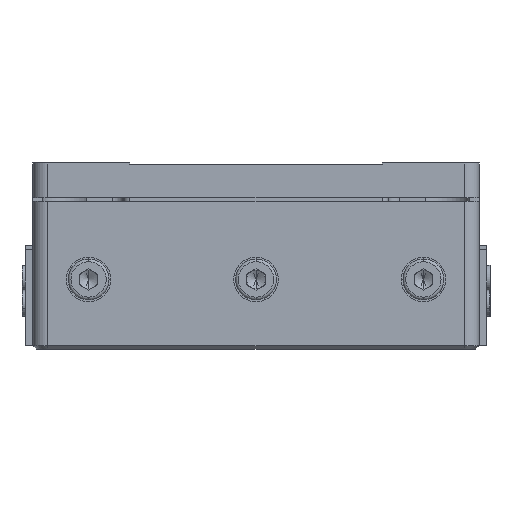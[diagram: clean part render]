
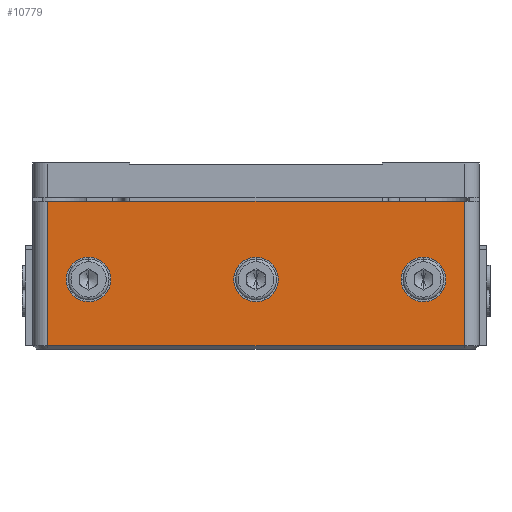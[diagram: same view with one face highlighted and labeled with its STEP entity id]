
A CAD part, front view. The second image highlights one B-rep face of the part: STEP entity #10779.
In plain terms, the highlighted planar face has unit normal (0, -1, 0).
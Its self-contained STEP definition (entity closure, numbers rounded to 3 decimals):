
#454 = ORIENTED_EDGE ( 'NONE', *, *, #6587, .F. ) ;
#657 = CARTESIAN_POINT ( 'NONE',  ( 55.241, -33.416, -5.075 ) ) ;
#1109 = EDGE_CURVE ( 'NONE', #3457, #6074, #19820, .T. ) ;
#1411 = CARTESIAN_POINT ( 'NONE',  ( 60.741, -33.416, -13.975 ) ) ;
#1605 = CIRCLE ( 'NONE', #4861, 3. ) ;
#1668 = DIRECTION ( 'NONE',  ( 0., -1., 0. ) ) ;
#1683 = EDGE_CURVE ( 'NONE', #16491, #10253, #20782, .T. ) ;
#1840 = EDGE_CURVE ( 'NONE', #19560, #17897, #1605, .T. ) ;
#1917 = ORIENTED_EDGE ( 'NONE', *, *, #7288, .T. ) ;
#2190 = CARTESIAN_POINT ( 'NONE',  ( 62.741, -33.416, 5.425 ) ) ;
#2390 = CARTESIAN_POINT ( 'NONE',  ( 60.741, -33.416, -13.975 ) ) ;
#2474 = ORIENTED_EDGE ( 'NONE', *, *, #16754, .T. ) ;
#2520 = CARTESIAN_POINT ( 'NONE',  ( 60.741, -33.416, -14.425 ) ) ;
#2535 = CARTESIAN_POINT ( 'NONE',  ( 10.241, -33.416, -5.075 ) ) ;
#2878 = DIRECTION ( 'NONE',  ( 1., 0., 0. ) ) ;
#3049 = EDGE_LOOP ( 'NONE', ( #19561, #9143 ) ) ;
#3066 = CARTESIAN_POINT ( 'NONE',  ( 52.241, -33.416, -5.075 ) ) ;
#3221 = CARTESIAN_POINT ( 'NONE',  ( 62.741, -33.416, -14.425 ) ) ;
#3457 = VERTEX_POINT ( 'NONE', #6841 ) ;
#4279 = ORIENTED_EDGE ( 'NONE', *, *, #22229, .F. ) ;
#4754 = FACE_BOUND ( 'NONE', #8170, .T. ) ;
#4861 = AXIS2_PLACEMENT_3D ( 'NONE', #23259, #1668, #13450 ) ;
#4879 = DIRECTION ( 'NONE',  ( 0., -1., 0. ) ) ;
#5041 = AXIS2_PLACEMENT_3D ( 'NONE', #23976, #16436, #14275 ) ;
#5119 = DIRECTION ( 'NONE',  ( 1., 0., 0. ) ) ;
#5796 = VERTEX_POINT ( 'NONE', #8941 ) ;
#5852 = VECTOR ( 'NONE', #20320, 1000. ) ;
#6074 = VERTEX_POINT ( 'NONE', #14773 ) ;
#6175 = CARTESIAN_POINT ( 'NONE',  ( 4.741, -33.416, -14.425 ) ) ;
#6433 = DIRECTION ( 'NONE',  ( 1., 0., 0. ) ) ;
#6587 = EDGE_CURVE ( 'NONE', #18452, #5796, #18028, .T. ) ;
#6724 = CARTESIAN_POINT ( 'NONE',  ( 7.241, -33.416, -5.075 ) ) ;
#6734 = CARTESIAN_POINT ( 'NONE',  ( 10.241, -33.416, -5.075 ) ) ;
#6813 = FACE_BOUND ( 'NONE', #23725, .T. ) ;
#6841 = CARTESIAN_POINT ( 'NONE',  ( 4.741, -33.416, 5.425 ) ) ;
#7288 = EDGE_CURVE ( 'NONE', #3457, #13726, #12298, .T. ) ;
#7377 = CARTESIAN_POINT ( 'NONE',  ( 4.741, -33.416, -13.975 ) ) ;
#7543 = CARTESIAN_POINT ( 'NONE',  ( 58.241, -33.416, -5.075 ) ) ;
#7812 = DIRECTION ( 'NONE',  ( 0., -1., 0. ) ) ;
#8170 = EDGE_LOOP ( 'NONE', ( #8839, #4279 ) ) ;
#8364 = EDGE_LOOP ( 'NONE', ( #1917, #15933, #2474, #12390 ) ) ;
#8839 = ORIENTED_EDGE ( 'NONE', *, *, #1840, .F. ) ;
#8941 = CARTESIAN_POINT ( 'NONE',  ( 13.241, -33.416, -5.075 ) ) ;
#9143 = ORIENTED_EDGE ( 'NONE', *, *, #13667, .F. ) ;
#9405 = CIRCLE ( 'NONE', #18343, 3. ) ;
#9997 = DIRECTION ( 'NONE',  ( 1., 0., 0. ) ) ;
#10006 = DIRECTION ( 'NONE',  ( 1., 0., 0. ) ) ;
#10250 = EDGE_CURVE ( 'NONE', #13726, #22244, #17009, .T. ) ;
#10253 = VERTEX_POINT ( 'NONE', #3066 ) ;
#10521 = FACE_OUTER_BOUND ( 'NONE', #8364, .T. ) ;
#10779 = ADVANCED_FACE ( 'NONE', ( #10521, #24176, #4754, #6813 ), #14592, .T. ) ;
#10928 = CARTESIAN_POINT ( 'NONE',  ( 35.741, -33.416, -5.075 ) ) ;
#11094 = AXIS2_PLACEMENT_3D ( 'NONE', #19531, #17615, #15954 ) ;
#11411 = EDGE_CURVE ( 'NONE', #5796, #18452, #9405, .T. ) ;
#12298 = LINE ( 'NONE', #6175, #5852 ) ;
#12315 = AXIS2_PLACEMENT_3D ( 'NONE', #6734, #20520, #2878 ) ;
#12390 = ORIENTED_EDGE ( 'NONE', *, *, #1109, .F. ) ;
#12641 = AXIS2_PLACEMENT_3D ( 'NONE', #657, #23911, #6433 ) ;
#12699 = DIRECTION ( 'NONE',  ( 0., 0., 1. ) ) ;
#13056 = ORIENTED_EDGE ( 'NONE', *, *, #11411, .F. ) ;
#13450 = DIRECTION ( 'NONE',  ( 1., 0., 0. ) ) ;
#13667 = EDGE_CURVE ( 'NONE', #10253, #16491, #20556, .T. ) ;
#13726 = VERTEX_POINT ( 'NONE', #7377 ) ;
#14052 = LINE ( 'NONE', #2520, #21139 ) ;
#14275 = DIRECTION ( 'NONE',  ( 1., 0., 0. ) ) ;
#14592 = PLANE ( 'NONE',  #24404 ) ;
#14773 = CARTESIAN_POINT ( 'NONE',  ( 60.741, -33.416, 5.425 ) ) ;
#15330 = CARTESIAN_POINT ( 'NONE',  ( 29.741, -33.416, -5.075 ) ) ;
#15933 = ORIENTED_EDGE ( 'NONE', *, *, #10250, .T. ) ;
#15954 = DIRECTION ( 'NONE',  ( 1., 0., 0. ) ) ;
#16436 = DIRECTION ( 'NONE',  ( 0., -1., 0. ) ) ;
#16491 = VERTEX_POINT ( 'NONE', #7543 ) ;
#16754 = EDGE_CURVE ( 'NONE', #22244, #6074, #14052, .T. ) ;
#17009 = LINE ( 'NONE', #1411, #21154 ) ;
#17228 = CIRCLE ( 'NONE', #11094, 3. ) ;
#17615 = DIRECTION ( 'NONE',  ( 0., -1., 0. ) ) ;
#17897 = VERTEX_POINT ( 'NONE', #15330 ) ;
#18028 = CIRCLE ( 'NONE', #12315, 3. ) ;
#18343 = AXIS2_PLACEMENT_3D ( 'NONE', #2535, #7812, #9997 ) ;
#18452 = VERTEX_POINT ( 'NONE', #6724 ) ;
#19531 = CARTESIAN_POINT ( 'NONE',  ( 32.741, -33.416, -5.075 ) ) ;
#19560 = VERTEX_POINT ( 'NONE', #10928 ) ;
#19561 = ORIENTED_EDGE ( 'NONE', *, *, #1683, .F. ) ;
#19820 = LINE ( 'NONE', #2190, #23659 ) ;
#20320 = DIRECTION ( 'NONE',  ( 0., 0., -1. ) ) ;
#20520 = DIRECTION ( 'NONE',  ( 0., -1., 0. ) ) ;
#20556 = CIRCLE ( 'NONE', #5041, 3. ) ;
#20782 = CIRCLE ( 'NONE', #12641, 3. ) ;
#21139 = VECTOR ( 'NONE', #21825, 1000. ) ;
#21154 = VECTOR ( 'NONE', #5119, 1000. ) ;
#21825 = DIRECTION ( 'NONE',  ( 0., 0., 1. ) ) ;
#22229 = EDGE_CURVE ( 'NONE', #17897, #19560, #17228, .T. ) ;
#22244 = VERTEX_POINT ( 'NONE', #2390 ) ;
#23259 = CARTESIAN_POINT ( 'NONE',  ( 32.741, -33.416, -5.075 ) ) ;
#23659 = VECTOR ( 'NONE', #10006, 1000. ) ;
#23725 = EDGE_LOOP ( 'NONE', ( #13056, #454 ) ) ;
#23911 = DIRECTION ( 'NONE',  ( 0., -1., 0. ) ) ;
#23976 = CARTESIAN_POINT ( 'NONE',  ( 55.241, -33.416, -5.075 ) ) ;
#24176 = FACE_BOUND ( 'NONE', #3049, .T. ) ;
#24404 = AXIS2_PLACEMENT_3D ( 'NONE', #3221, #4879, #12699 ) ;
